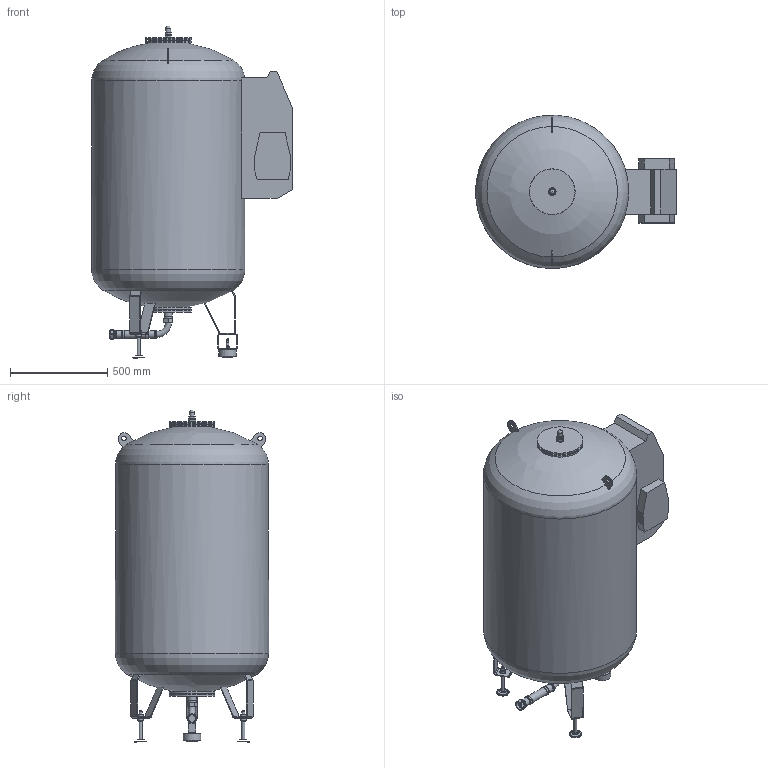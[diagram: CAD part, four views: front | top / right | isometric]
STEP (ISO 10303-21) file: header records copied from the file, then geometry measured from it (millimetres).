
FILE_DESCRIPTION(/* description */ (''),/* implementation_level */ '2;1');
FILE_NAME(/* name */ '\\DATASERVER\data\Flamco\3D-Modellen\Inventor\Flamcomat\2021_Flamcomat MK-U G4\flamcomat_mk-u_g4_600l.stp',/* time_stamp */ '2021-11-29T10:57:13+01:00',/* author */ ('kasius'),/* organization */ (''),/* preprocessor_version */ 'ST-DEVELOPER v17',/* originating_system */ 'Autodesk Inventor 2018',/* authorisation */ '');
FILE_SCHEMA (('AUTOMOTIVE_DESIGN { 1 0 10303 214 3 1 1 }'));
Length unit declared in the file: millimetre
Products named in the file (1): flamcomat_mk-u_g4_600l
Bounding box: 1031.9 x 787.8 x 1707.63 mm (x, y, z)
Volume: 644167398.7 mm3; surface area: 4722538.7 mm2
Topology: 5 solids, 5 shells, 334 faces, 895 edges, 616 vertices
Faces by surface type: plane 166, cylinder 102, cone 58, torus 5, sphere 3
Full cylindrical faces by diameter (mm): 4.6 x1, 9 x1, 10 x2, 12 x1, 12.997 x2, 13 x1, 14 x1, 14.5 x1, 15 x1, 15.997 x4, 17.998 x1, 20 x2, 20.955 x1, 23.5 x2, 24 x1, 27.625 x4, 31 x1, 32.997 x2, 33.7 x1, 38.75 x1, 39 x1, 40.8 x2, 41.4 x1, 41.91 x1, 42 x1, 46 x2, 65 x2, 90 x1, 188 x1, 208.362 x2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
Entity records: 10990 total; most frequent: DIRECTION 1966, CARTESIAN_POINT 1965, ORIENTED_EDGE 1800, EDGE_CURVE 900, AXIS2_PLACEMENT_3D 785, VERTEX_POINT 616, CIRCLE 450, LINE 396
